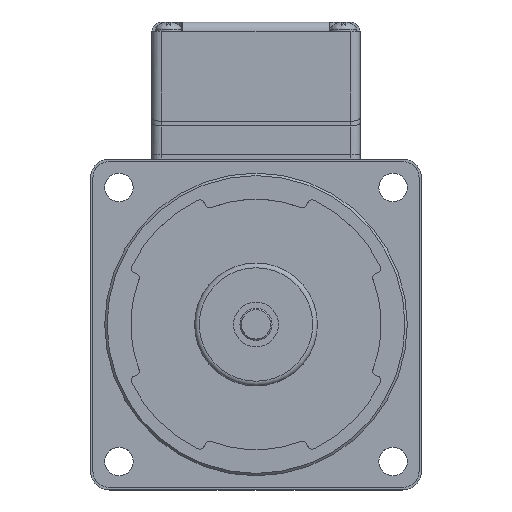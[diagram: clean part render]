
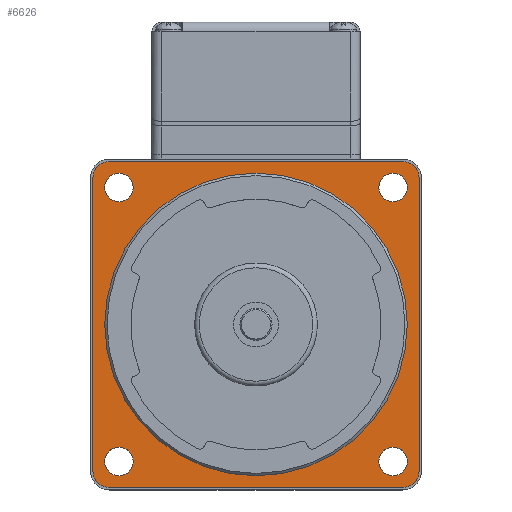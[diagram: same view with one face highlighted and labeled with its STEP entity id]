
A CAD part, top view. The second image highlights one B-rep face of the part: STEP entity #6626.
In plain terms, the highlighted planar face has unit normal (0, 0, 1).
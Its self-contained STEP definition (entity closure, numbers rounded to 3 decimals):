
#30 = AXIS2_PLACEMENT_3D ( 'NONE', #2803, #1621, #3914 ) ;
#78 = VERTEX_POINT ( 'NONE', #7115 ) ;
#141 = AXIS2_PLACEMENT_3D ( 'NONE', #6313, #355, #6736 ) ;
#153 = ORIENTED_EDGE ( 'NONE', *, *, #858, .F. ) ;
#203 = VERTEX_POINT ( 'NONE', #683 ) ;
#355 = DIRECTION ( 'NONE',  ( 0., 0., 1. ) ) ;
#379 = DIRECTION ( 'NONE',  ( 1., 0., 0. ) ) ;
#403 = VECTOR ( 'NONE', #379, 1000. ) ;
#471 = VECTOR ( 'NONE', #2662, 1000. ) ;
#640 = EDGE_CURVE ( 'NONE', #6057, #7461, #1515, .T. ) ;
#683 = CARTESIAN_POINT ( 'NONE',  ( 28.991, 31.991, 0. ) ) ;
#692 = DIRECTION ( 'NONE',  ( 0., 0., 1. ) ) ;
#806 = DIRECTION ( 'NONE',  ( 0., 0., 1. ) ) ;
#814 = CARTESIAN_POINT ( 'NONE',  ( -34.5, -31., 0. ) ) ;
#858 = EDGE_CURVE ( 'NONE', #4733, #4733, #5939, .T. ) ;
#860 = CIRCLE ( 'NONE', #5773, 3. ) ;
#999 = LINE ( 'NONE', #2021, #471 ) ;
#1149 = ORIENTED_EDGE ( 'NONE', *, *, #6661, .F. ) ;
#1193 = DIRECTION ( 'NONE',  ( 0., 0., 1. ) ) ;
#1274 = CARTESIAN_POINT ( 'NONE',  ( -28.991, -31.991, 0. ) ) ;
#1383 = CARTESIAN_POINT ( 'NONE',  ( -31., 31., 0. ) ) ;
#1390 = AXIS2_PLACEMENT_3D ( 'NONE', #5360, #1193, #7203 ) ;
#1410 = DIRECTION ( 'NONE',  ( 0., 1., 0. ) ) ;
#1429 = EDGE_LOOP ( 'NONE', ( #3823 ) ) ;
#1442 = PLANE ( 'NONE',  #6387 ) ;
#1486 = VECTOR ( 'NONE', #1843, 1000. ) ;
#1515 = CIRCLE ( 'NONE', #3343, 3.5 ) ;
#1621 = DIRECTION ( 'NONE',  ( 0., 0., 1. ) ) ;
#1647 = ORIENTED_EDGE ( 'NONE', *, *, #640, .T. ) ;
#1734 = CIRCLE ( 'NONE', #141, 3. ) ;
#1776 = CARTESIAN_POINT ( 'NONE',  ( 31.991, -28.991, 0. ) ) ;
#1843 = DIRECTION ( 'NONE',  ( -1., 0., 0. ) ) ;
#1844 = VERTEX_POINT ( 'NONE', #2076 ) ;
#1853 = VERTEX_POINT ( 'NONE', #1274 ) ;
#1875 = EDGE_LOOP ( 'NONE', ( #1149 ) ) ;
#1946 = DIRECTION ( 'NONE',  ( 0., 0., 1. ) ) ;
#1947 = ORIENTED_EDGE ( 'NONE', *, *, #2528, .T. ) ;
#1983 = ORIENTED_EDGE ( 'NONE', *, *, #3119, .T. ) ;
#2021 = CARTESIAN_POINT ( 'NONE',  ( -34.5, 31., 0. ) ) ;
#2076 = CARTESIAN_POINT ( 'NONE',  ( 34.5, 31., 0. ) ) ;
#2114 = CARTESIAN_POINT ( 'NONE',  ( -31., -34.5, 0. ) ) ;
#2215 = VERTEX_POINT ( 'NONE', #5599 ) ;
#2272 = DIRECTION ( 'NONE',  ( 1., 0., 0. ) ) ;
#2312 = VERTEX_POINT ( 'NONE', #5131 ) ;
#2330 = CARTESIAN_POINT ( 'NONE',  ( 31., 34.5, 0. ) ) ;
#2436 = FACE_BOUND ( 'NONE', #7538, .T. ) ;
#2483 = EDGE_CURVE ( 'NONE', #2215, #1844, #4270, .T. ) ;
#2490 = CIRCLE ( 'NONE', #5443, 3.5 ) ;
#2517 = FACE_BOUND ( 'NONE', #1875, .T. ) ;
#2528 = EDGE_CURVE ( 'NONE', #1844, #3941, #3217, .T. ) ;
#2553 = FACE_BOUND ( 'NONE', #5636, .T. ) ;
#2626 = CARTESIAN_POINT ( 'NONE',  ( -34.5, 31., 0. ) ) ;
#2662 = DIRECTION ( 'NONE',  ( 0., -1., 0. ) ) ;
#2683 = EDGE_CURVE ( 'NONE', #3568, #3568, #6784, .T. ) ;
#2803 = CARTESIAN_POINT ( 'NONE',  ( -28.991, 28.991, 0. ) ) ;
#2860 = EDGE_LOOP ( 'NONE', ( #7102, #1947, #6317, #1647, #3839, #4197, #1983, #5904 ) ) ;
#2882 = EDGE_LOOP ( 'NONE', ( #3759 ) ) ;
#2940 = CARTESIAN_POINT ( 'NONE',  ( -31., 34.5, 0. ) ) ;
#2947 = EDGE_CURVE ( 'NONE', #7414, #4260, #2490, .T. ) ;
#3040 = DIRECTION ( 'NONE',  ( 1., 0., 0. ) ) ;
#3119 = EDGE_CURVE ( 'NONE', #4260, #2312, #6303, .T. ) ;
#3217 = CIRCLE ( 'NONE', #1390, 3.5 ) ;
#3343 = AXIS2_PLACEMENT_3D ( 'NONE', #1383, #5908, #3673 ) ;
#3504 = CARTESIAN_POINT ( 'NONE',  ( 28.991, -28.991, 0. ) ) ;
#3568 = VERTEX_POINT ( 'NONE', #3610 ) ;
#3575 = CARTESIAN_POINT ( 'NONE',  ( 34.5, -31., 0. ) ) ;
#3610 = CARTESIAN_POINT ( 'NONE',  ( -31.991, 28.991, 0. ) ) ;
#3673 = DIRECTION ( 'NONE',  ( 1., 0., 0. ) ) ;
#3759 = ORIENTED_EDGE ( 'NONE', *, *, #7511, .F. ) ;
#3775 = CARTESIAN_POINT ( 'NONE',  ( 0., 0., 0. ) ) ;
#3823 = ORIENTED_EDGE ( 'NONE', *, *, #7307, .F. ) ;
#3839 = ORIENTED_EDGE ( 'NONE', *, *, #5580, .T. ) ;
#3914 = DIRECTION ( 'NONE',  ( -1., 0., 0. ) ) ;
#3941 = VERTEX_POINT ( 'NONE', #7174 ) ;
#4008 = DIRECTION ( 'NONE',  ( 1., 0., 0. ) ) ;
#4196 = CARTESIAN_POINT ( 'NONE',  ( 28.991, 28.991, 0. ) ) ;
#4197 = ORIENTED_EDGE ( 'NONE', *, *, #2947, .T. ) ;
#4260 = VERTEX_POINT ( 'NONE', #5882 ) ;
#4270 = LINE ( 'NONE', #3575, #6779 ) ;
#4318 = DIRECTION ( 'NONE',  ( 0., 0., 1. ) ) ;
#4357 = FACE_BOUND ( 'NONE', #1429, .T. ) ;
#4733 = VERTEX_POINT ( 'NONE', #1776 ) ;
#4740 = DIRECTION ( 'NONE',  ( 0., 1., 0. ) ) ;
#5103 = DIRECTION ( 'NONE',  ( 0., 0., 1. ) ) ;
#5131 = CARTESIAN_POINT ( 'NONE',  ( 31., -34.5, 0. ) ) ;
#5212 = CARTESIAN_POINT ( 'NONE',  ( 0., 0., 0. ) ) ;
#5300 = AXIS2_PLACEMENT_3D ( 'NONE', #5212, #7555, #2272 ) ;
#5360 = CARTESIAN_POINT ( 'NONE',  ( 31., 31., 0. ) ) ;
#5443 = AXIS2_PLACEMENT_3D ( 'NONE', #6148, #806, #6040 ) ;
#5555 = CIRCLE ( 'NONE', #5300, 32. ) ;
#5580 = EDGE_CURVE ( 'NONE', #7461, #7414, #999, .T. ) ;
#5599 = CARTESIAN_POINT ( 'NONE',  ( 34.5, -31., 0. ) ) ;
#5636 = EDGE_LOOP ( 'NONE', ( #6347 ) ) ;
#5773 = AXIS2_PLACEMENT_3D ( 'NONE', #4196, #4318, #1410 ) ;
#5786 = AXIS2_PLACEMENT_3D ( 'NONE', #5972, #692, #3040 ) ;
#5882 = CARTESIAN_POINT ( 'NONE',  ( -31., -34.5, 0. ) ) ;
#5904 = ORIENTED_EDGE ( 'NONE', *, *, #7421, .T. ) ;
#5908 = DIRECTION ( 'NONE',  ( 0., 0., 1. ) ) ;
#5939 = CIRCLE ( 'NONE', #6556, 3. ) ;
#5972 = CARTESIAN_POINT ( 'NONE',  ( 31., -31., 0. ) ) ;
#6038 = CIRCLE ( 'NONE', #5786, 3.5 ) ;
#6040 = DIRECTION ( 'NONE',  ( 1., 0., 0. ) ) ;
#6057 = VERTEX_POINT ( 'NONE', #2940 ) ;
#6148 = CARTESIAN_POINT ( 'NONE',  ( -31., -31., 0. ) ) ;
#6303 = LINE ( 'NONE', #2114, #403 ) ;
#6313 = CARTESIAN_POINT ( 'NONE',  ( -28.991, -28.991, 0. ) ) ;
#6317 = ORIENTED_EDGE ( 'NONE', *, *, #7107, .T. ) ;
#6347 = ORIENTED_EDGE ( 'NONE', *, *, #2683, .F. ) ;
#6387 = AXIS2_PLACEMENT_3D ( 'NONE', #3775, #1946, #7168 ) ;
#6450 = LINE ( 'NONE', #2330, #1486 ) ;
#6556 = AXIS2_PLACEMENT_3D ( 'NONE', #3504, #5103, #4008 ) ;
#6626 = ADVANCED_FACE ( 'NONE', ( #4357, #6707, #2553, #2517, #2436, #7208 ), #1442, .T. ) ;
#6661 = EDGE_CURVE ( 'NONE', #203, #203, #860, .T. ) ;
#6707 = FACE_BOUND ( 'NONE', #2882, .T. ) ;
#6736 = DIRECTION ( 'NONE',  ( 0., -1., 0. ) ) ;
#6779 = VECTOR ( 'NONE', #4740, 1000. ) ;
#6784 = CIRCLE ( 'NONE', #30, 3. ) ;
#7102 = ORIENTED_EDGE ( 'NONE', *, *, #2483, .T. ) ;
#7107 = EDGE_CURVE ( 'NONE', #3941, #6057, #6450, .T. ) ;
#7115 = CARTESIAN_POINT ( 'NONE',  ( 32., 0., 0. ) ) ;
#7168 = DIRECTION ( 'NONE',  ( 1., 0., 0. ) ) ;
#7174 = CARTESIAN_POINT ( 'NONE',  ( 31., 34.5, 0. ) ) ;
#7203 = DIRECTION ( 'NONE',  ( 1., 0., 0. ) ) ;
#7208 = FACE_OUTER_BOUND ( 'NONE', #2860, .T. ) ;
#7307 = EDGE_CURVE ( 'NONE', #78, #78, #5555, .T. ) ;
#7414 = VERTEX_POINT ( 'NONE', #814 ) ;
#7421 = EDGE_CURVE ( 'NONE', #2312, #2215, #6038, .T. ) ;
#7461 = VERTEX_POINT ( 'NONE', #2626 ) ;
#7511 = EDGE_CURVE ( 'NONE', #1853, #1853, #1734, .T. ) ;
#7538 = EDGE_LOOP ( 'NONE', ( #153 ) ) ;
#7555 = DIRECTION ( 'NONE',  ( 0., 0., 1. ) ) ;
